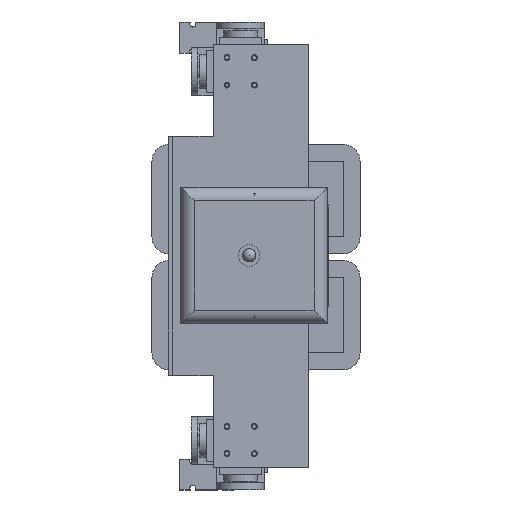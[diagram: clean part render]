
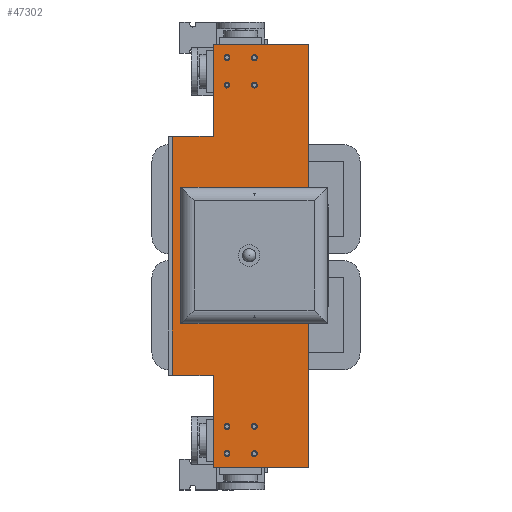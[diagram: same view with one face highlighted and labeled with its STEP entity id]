
A CAD part, top view. The second image highlights one B-rep face of the part: STEP entity #47302.
In plain terms, the highlighted planar face has unit normal (0, 0, 1).
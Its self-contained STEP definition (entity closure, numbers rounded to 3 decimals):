
#45119 = VERTEX_POINT('',#45120);
#45120 = CARTESIAN_POINT('',(-40.,-70.,513.5));
#45126 = EDGE_CURVE('',#45119,#45127,#45129,.T.);
#45127 = VERTEX_POINT('',#45128);
#45128 = CARTESIAN_POINT('',(-16.,-70.,513.5));
#45129 = LINE('',#45130,#45131);
#45130 = CARTESIAN_POINT('',(-40.,-70.,513.5));
#45131 = VECTOR('',#45132,1.);
#45132 = DIRECTION('',(1.,0.,0.));
#45378 = VERTEX_POINT('',#45379);
#45379 = CARTESIAN_POINT('',(-40.,70.,513.5));
#45385 = EDGE_CURVE('',#45378,#45386,#45388,.T.);
#45386 = VERTEX_POINT('',#45387);
#45387 = CARTESIAN_POINT('',(-16.,70.,513.5));
#45388 = LINE('',#45389,#45390);
#45389 = CARTESIAN_POINT('',(-40.,70.,513.5));
#45390 = VECTOR('',#45391,1.);
#45391 = DIRECTION('',(1.,0.,0.));
#45525 = VERTEX_POINT('',#45526);
#45526 = CARTESIAN_POINT('',(-16.,-124.,513.5));
#45534 = EDGE_CURVE('',#45525,#45127,#45535,.T.);
#45535 = LINE('',#45536,#45537);
#45536 = CARTESIAN_POINT('',(-16.,-124.,513.5));
#45537 = VECTOR('',#45538,1.);
#45538 = DIRECTION('',(0.,1.,0.));
#45594 = EDGE_CURVE('',#45595,#45595,#45597,.T.);
#45595 = VERTEX_POINT('',#45596);
#45596 = CARTESIAN_POINT('',(-28.85,0.,513.5));
#45597 = CIRCLE('',#45598,1.25);
#45598 = AXIS2_PLACEMENT_3D('',#45599,#45600,#45601);
#45599 = CARTESIAN_POINT('',(-30.1,0.,513.5));
#45600 = DIRECTION('',(0.,0.,1.));
#45601 = DIRECTION('',(1.,0.,0.));
#45620 = VERTEX_POINT('',#45621);
#45621 = CARTESIAN_POINT('',(17.4,-12.75,513.5));
#45629 = VERTEX_POINT('',#45630);
#45630 = CARTESIAN_POINT('',(-28.6,-12.75,513.5));
#45636 = EDGE_CURVE('',#45620,#45629,#45637,.T.);
#45637 = LINE('',#45638,#45639);
#45638 = CARTESIAN_POINT('',(-34.3,-12.75,513.5));
#45639 = VECTOR('',#45640,1.);
#45640 = DIRECTION('',(-1.,0.,0.));
#45653 = VERTEX_POINT('',#45654);
#45654 = CARTESIAN_POINT('',(17.4,12.75,513.5));
#45660 = EDGE_CURVE('',#45620,#45653,#45661,.T.);
#45661 = LINE('',#45662,#45663);
#45662 = CARTESIAN_POINT('',(17.4,-41.375,513.5));
#45663 = VECTOR('',#45664,1.);
#45664 = DIRECTION('',(0.,1.,0.));
#45677 = VERTEX_POINT('',#45678);
#45678 = CARTESIAN_POINT('',(-28.6,12.75,513.5));
#45684 = EDGE_CURVE('',#45629,#45677,#45685,.T.);
#45685 = LINE('',#45686,#45687);
#45686 = CARTESIAN_POINT('',(-28.6,-41.375,513.5));
#45687 = VECTOR('',#45688,1.);
#45688 = DIRECTION('',(0.,1.,0.));
#45701 = EDGE_CURVE('',#45653,#45677,#45702,.T.);
#45702 = LINE('',#45703,#45704);
#45703 = CARTESIAN_POINT('',(-34.3,12.75,513.5));
#45704 = VECTOR('',#45705,1.);
#45705 = DIRECTION('',(-1.,0.,0.));
#45715 = EDGE_CURVE('',#45716,#45716,#45718,.T.);
#45716 = VERTEX_POINT('',#45717);
#45717 = CARTESIAN_POINT('',(20.15,0.,513.5));
#45718 = CIRCLE('',#45719,1.25);
#45719 = AXIS2_PLACEMENT_3D('',#45720,#45721,#45722);
#45720 = CARTESIAN_POINT('',(18.9,0.,513.5));
#45721 = DIRECTION('',(0.,0.,1.));
#45722 = DIRECTION('',(1.,0.,0.));
#46090 = VERTEX_POINT('',#46091);
#46091 = CARTESIAN_POINT('',(-16.,124.,513.5));
#46097 = EDGE_CURVE('',#45386,#46090,#46098,.T.);
#46098 = LINE('',#46099,#46100);
#46099 = CARTESIAN_POINT('',(-16.,70.,513.5));
#46100 = VECTOR('',#46101,1.);
#46101 = DIRECTION('',(0.,1.,0.));
#46485 = EDGE_CURVE('',#45525,#46486,#46488,.T.);
#46486 = VERTEX_POINT('',#46487);
#46487 = CARTESIAN_POINT('',(40.,-124.,513.5));
#46488 = LINE('',#46489,#46490);
#46489 = CARTESIAN_POINT('',(-16.,-124.,513.5));
#46490 = VECTOR('',#46491,1.);
#46491 = DIRECTION('',(1.,0.,0.));
#46507 = EDGE_CURVE('',#46508,#46508,#46510,.T.);
#46508 = VERTEX_POINT('',#46509);
#46509 = CARTESIAN_POINT('',(-6.25,-116.,513.5));
#46510 = CIRCLE('',#46511,1.75);
#46511 = AXIS2_PLACEMENT_3D('',#46512,#46513,#46514);
#46512 = CARTESIAN_POINT('',(-8.,-116.,513.5));
#46513 = DIRECTION('',(0.,0.,1.));
#46514 = DIRECTION('',(1.,0.,0.));
#46532 = EDGE_CURVE('',#46533,#46533,#46535,.T.);
#46533 = VERTEX_POINT('',#46534);
#46534 = CARTESIAN_POINT('',(9.75,-116.,513.5));
#46535 = CIRCLE('',#46536,1.75);
#46536 = AXIS2_PLACEMENT_3D('',#46537,#46538,#46539);
#46537 = CARTESIAN_POINT('',(8.,-116.,513.5));
#46538 = DIRECTION('',(0.,0.,1.));
#46539 = DIRECTION('',(1.,0.,0.));
#46557 = EDGE_CURVE('',#46558,#46558,#46560,.T.);
#46558 = VERTEX_POINT('',#46559);
#46559 = CARTESIAN_POINT('',(-6.25,-100.,513.5));
#46560 = CIRCLE('',#46561,1.75);
#46561 = AXIS2_PLACEMENT_3D('',#46562,#46563,#46564);
#46562 = CARTESIAN_POINT('',(-8.,-100.,513.5));
#46563 = DIRECTION('',(0.,0.,1.));
#46564 = DIRECTION('',(1.,0.,0.));
#46582 = EDGE_CURVE('',#46583,#46583,#46585,.T.);
#46583 = VERTEX_POINT('',#46584);
#46584 = CARTESIAN_POINT('',(9.75,-100.,513.5));
#46585 = CIRCLE('',#46586,1.75);
#46586 = AXIS2_PLACEMENT_3D('',#46587,#46588,#46589);
#46587 = CARTESIAN_POINT('',(8.,-100.,513.5));
#46588 = DIRECTION('',(0.,0.,1.));
#46589 = DIRECTION('',(1.,0.,0.));
#46609 = EDGE_CURVE('',#46090,#46610,#46612,.T.);
#46610 = VERTEX_POINT('',#46611);
#46611 = CARTESIAN_POINT('',(40.,124.,513.5));
#46612 = LINE('',#46613,#46614);
#46613 = CARTESIAN_POINT('',(-16.,124.,513.5));
#46614 = VECTOR('',#46615,1.);
#46615 = DIRECTION('',(1.,0.,0.));
#46631 = EDGE_CURVE('',#46632,#46632,#46634,.T.);
#46632 = VERTEX_POINT('',#46633);
#46633 = CARTESIAN_POINT('',(-6.25,100.,513.5));
#46634 = CIRCLE('',#46635,1.75);
#46635 = AXIS2_PLACEMENT_3D('',#46636,#46637,#46638);
#46636 = CARTESIAN_POINT('',(-8.,100.,513.5));
#46637 = DIRECTION('',(0.,0.,1.));
#46638 = DIRECTION('',(1.,0.,0.));
#46656 = EDGE_CURVE('',#46657,#46657,#46659,.T.);
#46657 = VERTEX_POINT('',#46658);
#46658 = CARTESIAN_POINT('',(9.75,100.,513.5));
#46659 = CIRCLE('',#46660,1.75);
#46660 = AXIS2_PLACEMENT_3D('',#46661,#46662,#46663);
#46661 = CARTESIAN_POINT('',(8.,100.,513.5));
#46662 = DIRECTION('',(0.,0.,1.));
#46663 = DIRECTION('',(1.,0.,0.));
#46681 = EDGE_CURVE('',#46682,#46682,#46684,.T.);
#46682 = VERTEX_POINT('',#46683);
#46683 = CARTESIAN_POINT('',(-6.25,116.,513.5));
#46684 = CIRCLE('',#46685,1.75);
#46685 = AXIS2_PLACEMENT_3D('',#46686,#46687,#46688);
#46686 = CARTESIAN_POINT('',(-8.,116.,513.5));
#46687 = DIRECTION('',(0.,0.,1.));
#46688 = DIRECTION('',(1.,0.,0.));
#46706 = EDGE_CURVE('',#46707,#46707,#46709,.T.);
#46707 = VERTEX_POINT('',#46708);
#46708 = CARTESIAN_POINT('',(9.75,116.,513.5));
#46709 = CIRCLE('',#46710,1.75);
#46710 = AXIS2_PLACEMENT_3D('',#46711,#46712,#46713);
#46711 = CARTESIAN_POINT('',(8.,116.,513.5));
#46712 = DIRECTION('',(0.,0.,1.));
#46713 = DIRECTION('',(1.,0.,0.));
#47048 = EDGE_CURVE('',#45119,#45378,#47049,.T.);
#47049 = LINE('',#47050,#47051);
#47050 = CARTESIAN_POINT('',(-40.,-70.,513.5));
#47051 = VECTOR('',#47052,1.);
#47052 = DIRECTION('',(0.,1.,0.));
#47302 = ADVANCED_FACE('',(#47303,#47318,#47324,#47327,#47330,#47333,
    #47336,#47339,#47342,#47345,#47348,#47351),#47354,.T.);
#47303 = FACE_BOUND('',#47304,.T.);
#47304 = EDGE_LOOP('',(#47305,#47306,#47307,#47308,#47309,#47315,#47316,
    #47317));
#47305 = ORIENTED_EDGE('',*,*,#47048,.F.);
#47306 = ORIENTED_EDGE('',*,*,#45126,.T.);
#47307 = ORIENTED_EDGE('',*,*,#45534,.F.);
#47308 = ORIENTED_EDGE('',*,*,#46485,.T.);
#47309 = ORIENTED_EDGE('',*,*,#47310,.T.);
#47310 = EDGE_CURVE('',#46486,#46610,#47311,.T.);
#47311 = LINE('',#47312,#47313);
#47312 = CARTESIAN_POINT('',(40.,-124.,513.5));
#47313 = VECTOR('',#47314,1.);
#47314 = DIRECTION('',(0.,1.,0.));
#47315 = ORIENTED_EDGE('',*,*,#46609,.F.);
#47316 = ORIENTED_EDGE('',*,*,#46097,.F.);
#47317 = ORIENTED_EDGE('',*,*,#45385,.F.);
#47318 = FACE_BOUND('',#47319,.T.);
#47319 = EDGE_LOOP('',(#47320,#47321,#47322,#47323));
#47320 = ORIENTED_EDGE('',*,*,#45636,.T.);
#47321 = ORIENTED_EDGE('',*,*,#45684,.T.);
#47322 = ORIENTED_EDGE('',*,*,#45701,.F.);
#47323 = ORIENTED_EDGE('',*,*,#45660,.F.);
#47324 = FACE_BOUND('',#47325,.T.);
#47325 = EDGE_LOOP('',(#47326));
#47326 = ORIENTED_EDGE('',*,*,#46631,.F.);
#47327 = FACE_BOUND('',#47328,.T.);
#47328 = EDGE_LOOP('',(#47329));
#47329 = ORIENTED_EDGE('',*,*,#46656,.F.);
#47330 = FACE_BOUND('',#47331,.T.);
#47331 = EDGE_LOOP('',(#47332));
#47332 = ORIENTED_EDGE('',*,*,#46681,.F.);
#47333 = FACE_BOUND('',#47334,.T.);
#47334 = EDGE_LOOP('',(#47335));
#47335 = ORIENTED_EDGE('',*,*,#46706,.F.);
#47336 = FACE_BOUND('',#47337,.T.);
#47337 = EDGE_LOOP('',(#47338));
#47338 = ORIENTED_EDGE('',*,*,#46507,.F.);
#47339 = FACE_BOUND('',#47340,.T.);
#47340 = EDGE_LOOP('',(#47341));
#47341 = ORIENTED_EDGE('',*,*,#46532,.F.);
#47342 = FACE_BOUND('',#47343,.T.);
#47343 = EDGE_LOOP('',(#47344));
#47344 = ORIENTED_EDGE('',*,*,#46557,.F.);
#47345 = FACE_BOUND('',#47346,.T.);
#47346 = EDGE_LOOP('',(#47347));
#47347 = ORIENTED_EDGE('',*,*,#46582,.F.);
#47348 = FACE_BOUND('',#47349,.T.);
#47349 = EDGE_LOOP('',(#47350));
#47350 = ORIENTED_EDGE('',*,*,#45594,.F.);
#47351 = FACE_BOUND('',#47352,.T.);
#47352 = EDGE_LOOP('',(#47353));
#47353 = ORIENTED_EDGE('',*,*,#45715,.F.);
#47354 = PLANE('',#47355);
#47355 = AXIS2_PLACEMENT_3D('',#47356,#47357,#47358);
#47356 = CARTESIAN_POINT('',(3.951,0.,513.5));
#47357 = DIRECTION('',(0.,0.,1.));
#47358 = DIRECTION('',(1.,0.,0.));
